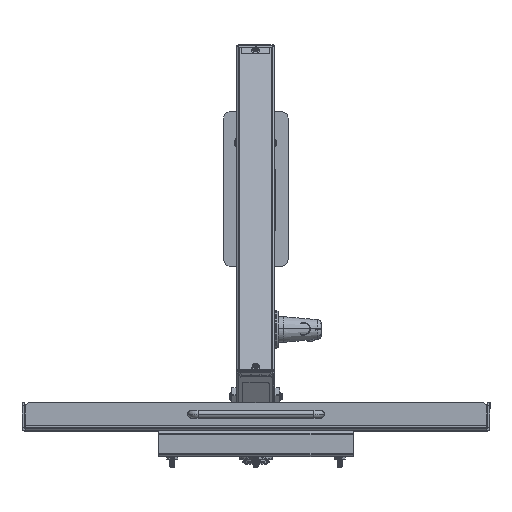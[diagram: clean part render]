
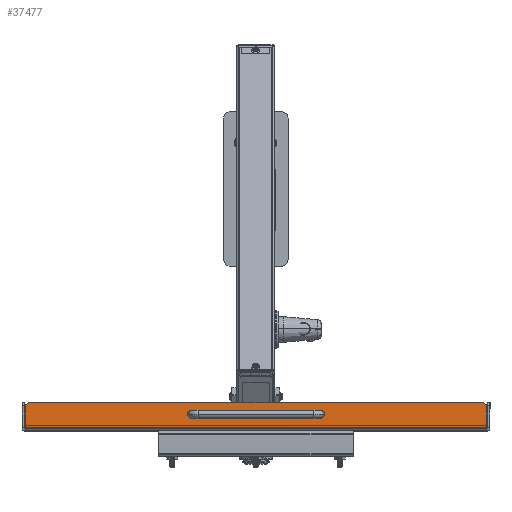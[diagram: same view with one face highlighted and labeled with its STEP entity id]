
A CAD part, top view. The second image highlights one B-rep face of the part: STEP entity #37477.
In plain terms, the highlighted planar face has unit normal (0, 0, 1).
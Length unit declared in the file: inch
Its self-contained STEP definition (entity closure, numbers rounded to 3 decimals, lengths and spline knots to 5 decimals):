
#27 = CARTESIAN_POINT ( 'NONE',  ( 2.5, 0.55, 6.09 ) ) ;
#424 = DIRECTION ( 'NONE',  ( -1., 0., 0. ) ) ;
#630 = CARTESIAN_POINT ( 'NONE',  ( 8.75, 1., 6.09 ) ) ;
#1450 = ORIENTED_EDGE ( 'NONE', *, *, #18751, .T. ) ;
#1497 = CARTESIAN_POINT ( 'NONE',  ( -2.5, 0.55, 6.09 ) ) ;
#3991 = ORIENTED_EDGE ( 'NONE', *, *, #56770, .T. ) ;
#6144 = AXIS2_PLACEMENT_3D ( 'NONE', #1497, #79896, #40096 ) ;
#6246 = VECTOR ( 'NONE', #38051, 39.37008 ) ;
#6308 = CARTESIAN_POINT ( 'NONE',  ( 8.75, 1., 6.09 ) ) ;
#6840 = CIRCLE ( 'NONE', #40320, 0.1005 ) ;
#9748 = PLANE ( 'NONE',  #31941 ) ;
#9813 = ORIENTED_EDGE ( 'NONE', *, *, #30412, .F. ) ;
#10121 = DIRECTION ( 'NONE',  ( 0., 0., -1. ) ) ;
#10621 = VECTOR ( 'NONE', #26229, 39.37008 ) ;
#11018 = VERTEX_POINT ( 'NONE', #6308 ) ;
#12420 = CARTESIAN_POINT ( 'NONE',  ( 8.96464, 0.032, 6.09 ) ) ;
#12916 = AXIS2_PLACEMENT_3D ( 'NONE', #67563, #10121, #49128 ) ;
#13704 = CARTESIAN_POINT ( 'NONE',  ( 8.96464, 0.75, 6.09 ) ) ;
#15462 = VERTEX_POINT ( 'NONE', #43965 ) ;
#15537 = EDGE_LOOP ( 'NONE', ( #3991, #52246 ) ) ;
#18751 = EDGE_CURVE ( 'NONE', #33503, #15462, #6840, .T. ) ;
#19023 = CARTESIAN_POINT ( 'NONE',  ( 8.75, 0.032, 6.09 ) ) ;
#19969 = ORIENTED_EDGE ( 'NONE', *, *, #24901, .T. ) ;
#20169 = VERTEX_POINT ( 'NONE', #12420 ) ;
#22342 = CIRCLE ( 'NONE', #57190, 0.25 ) ;
#22760 = FACE_BOUND ( 'NONE', #36290, .T. ) ;
#23951 = ORIENTED_EDGE ( 'NONE', *, *, #67585, .F. ) ;
#24261 = CARTESIAN_POINT ( 'NONE',  ( -8.75, 1., 6.09 ) ) ;
#24794 = CARTESIAN_POINT ( 'NONE',  ( -8.96464, 0.032, 6.09 ) ) ;
#24901 = EDGE_CURVE ( 'NONE', #67906, #20169, #24914, .T. ) ;
#24914 = LINE ( 'NONE', #19023, #59637 ) ;
#24949 = CIRCLE ( 'NONE', #12916, 0.1005 ) ;
#26229 = DIRECTION ( 'NONE',  ( 1., 0., 0. ) ) ;
#27516 = CIRCLE ( 'NONE', #39543, 0.1005 ) ;
#28558 = CARTESIAN_POINT ( 'NONE',  ( 8.96464, 0.87817, 6.09 ) ) ;
#28986 = VERTEX_POINT ( 'NONE', #53808 ) ;
#29000 = AXIS2_PLACEMENT_3D ( 'NONE', #30103, #72591, #61128 ) ;
#30103 = CARTESIAN_POINT ( 'NONE',  ( -8.75, 0.75, 6.09 ) ) ;
#30142 = EDGE_CURVE ( 'NONE', #28986, #44544, #54420, .T. ) ;
#30412 = EDGE_CURVE ( 'NONE', #72648, #20169, #63610, .T. ) ;
#30931 = EDGE_CURVE ( 'NONE', #11018, #72648, #22342, .T. ) ;
#31941 = AXIS2_PLACEMENT_3D ( 'NONE', #66365, #54200, #40398 ) ;
#32730 = EDGE_CURVE ( 'NONE', #15462, #33503, #24949, .T. ) ;
#33503 = VERTEX_POINT ( 'NONE', #48424 ) ;
#35539 = CARTESIAN_POINT ( 'NONE',  ( -2.5, 0.55, 6.09 ) ) ;
#36290 = EDGE_LOOP ( 'NONE', ( #1450, #69626 ) ) ;
#37202 = LINE ( 'NONE', #55637, #74379 ) ;
#37477 = ADVANCED_FACE ( 'NONE', ( #60899, #79372, #22760 ), #9748, .T. ) ;
#38051 = DIRECTION ( 'NONE',  ( 0., -1., 0. ) ) ;
#39543 = AXIS2_PLACEMENT_3D ( 'NONE', #35539, #56471, #74510 ) ;
#40096 = DIRECTION ( 'NONE',  ( -1., 0., 0. ) ) ;
#40320 = AXIS2_PLACEMENT_3D ( 'NONE', #27, #82659, #424 ) ;
#40398 = DIRECTION ( 'NONE',  ( 0., -1., 0. ) ) ;
#42980 = DIRECTION ( 'NONE',  ( 1., 0., 0. ) ) ;
#43965 = CARTESIAN_POINT ( 'NONE',  ( 2.3995, 0.55, 6.09 ) ) ;
#44059 = CARTESIAN_POINT ( 'NONE',  ( 8.75, 0.75, 6.09 ) ) ;
#44544 = VERTEX_POINT ( 'NONE', #24261 ) ;
#44883 = DIRECTION ( 'NONE',  ( 0., 0., -1. ) ) ;
#46218 = ORIENTED_EDGE ( 'NONE', *, *, #30931, .F. ) ;
#48424 = CARTESIAN_POINT ( 'NONE',  ( 2.6005, 0.55, 6.09 ) ) ;
#49128 = DIRECTION ( 'NONE',  ( -1., 0., 0. ) ) ;
#52057 = ORIENTED_EDGE ( 'NONE', *, *, #55861, .T. ) ;
#52246 = ORIENTED_EDGE ( 'NONE', *, *, #55656, .T. ) ;
#53208 = CARTESIAN_POINT ( 'NONE',  ( -2.6005, 0.55, 6.09 ) ) ;
#53808 = CARTESIAN_POINT ( 'NONE',  ( -8.96464, 0.87817, 6.09 ) ) ;
#54200 = DIRECTION ( 'NONE',  ( 0., 0., 1. ) ) ;
#54420 = CIRCLE ( 'NONE', #29000, 0.25 ) ;
#55637 = CARTESIAN_POINT ( 'NONE',  ( -8.96464, 0.75, 6.09 ) ) ;
#55656 = EDGE_CURVE ( 'NONE', #82278, #70131, #27516, .T. ) ;
#55861 = EDGE_CURVE ( 'NONE', #28986, #67906, #37202, .T. ) ;
#56212 = DIRECTION ( 'NONE',  ( 0., -1., 0. ) ) ;
#56471 = DIRECTION ( 'NONE',  ( 0., 0., -1. ) ) ;
#56770 = EDGE_CURVE ( 'NONE', #70131, #82278, #79769, .T. ) ;
#57190 = AXIS2_PLACEMENT_3D ( 'NONE', #44059, #44883, #56212 ) ;
#58158 = EDGE_LOOP ( 'NONE', ( #9813, #46218, #23951, #77736, #52057, #19969 ) ) ;
#59637 = VECTOR ( 'NONE', #42980, 39.37008 ) ;
#60899 = FACE_BOUND ( 'NONE', #15537, .T. ) ;
#61128 = DIRECTION ( 'NONE',  ( 0., -1., 0. ) ) ;
#63610 = LINE ( 'NONE', #13704, #6246 ) ;
#66365 = CARTESIAN_POINT ( 'NONE',  ( 8.75, 0.75, 6.09 ) ) ;
#67563 = CARTESIAN_POINT ( 'NONE',  ( 2.5, 0.55, 6.09 ) ) ;
#67585 = EDGE_CURVE ( 'NONE', #44544, #11018, #70670, .T. ) ;
#67906 = VERTEX_POINT ( 'NONE', #24794 ) ;
#68536 = CARTESIAN_POINT ( 'NONE',  ( -2.3995, 0.55, 6.09 ) ) ;
#69626 = ORIENTED_EDGE ( 'NONE', *, *, #32730, .T. ) ;
#70131 = VERTEX_POINT ( 'NONE', #68536 ) ;
#70670 = LINE ( 'NONE', #630, #10621 ) ;
#72591 = DIRECTION ( 'NONE',  ( 0., 0., -1. ) ) ;
#72648 = VERTEX_POINT ( 'NONE', #28558 ) ;
#74379 = VECTOR ( 'NONE', #80402, 39.37008 ) ;
#74510 = DIRECTION ( 'NONE',  ( -1., 0., 0. ) ) ;
#77736 = ORIENTED_EDGE ( 'NONE', *, *, #30142, .F. ) ;
#79372 = FACE_OUTER_BOUND ( 'NONE', #58158, .T. ) ;
#79769 = CIRCLE ( 'NONE', #6144, 0.1005 ) ;
#79896 = DIRECTION ( 'NONE',  ( 0., 0., -1. ) ) ;
#80402 = DIRECTION ( 'NONE',  ( 0., -1., 0. ) ) ;
#82278 = VERTEX_POINT ( 'NONE', #53208 ) ;
#82659 = DIRECTION ( 'NONE',  ( 0., 0., -1. ) ) ;
